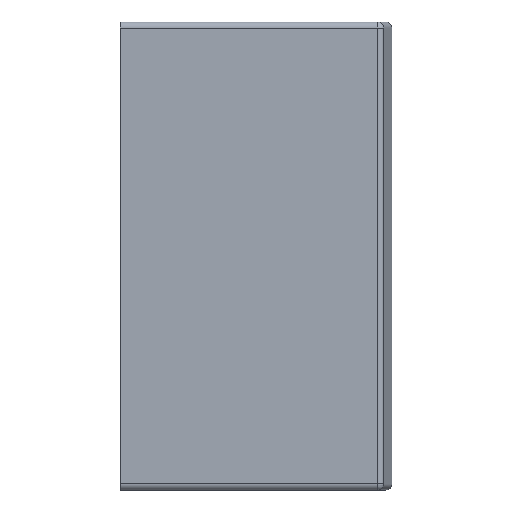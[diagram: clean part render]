
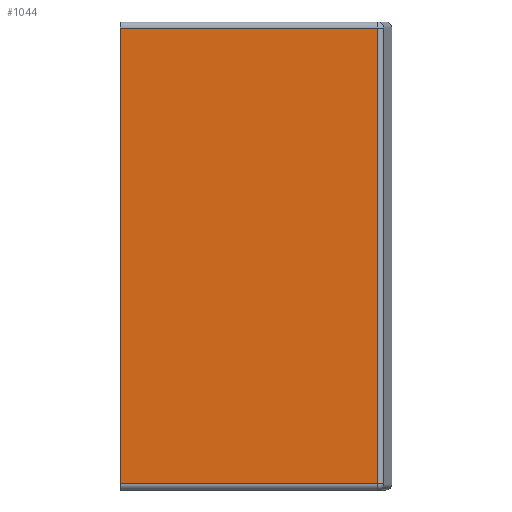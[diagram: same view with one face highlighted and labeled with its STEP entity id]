
A CAD part, top view. The second image highlights one B-rep face of the part: STEP entity #1044.
In plain terms, the highlighted planar face has unit normal (0, 0, 1).
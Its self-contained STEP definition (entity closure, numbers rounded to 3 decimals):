
#5 = VECTOR ( 'NONE', #625, 1000. ) ;
#16 = EDGE_CURVE ( 'NONE', #191, #865, #353, .T. ) ;
#56 = CARTESIAN_POINT ( 'NONE',  ( 67.6, 7.55, 1.5 ) ) ;
#75 = DIRECTION ( 'NONE',  ( 0., -1., 0. ) ) ;
#167 = EDGE_CURVE ( 'NONE', #865, #259, #483, .T. ) ;
#177 = VERTEX_POINT ( 'NONE', #56 ) ;
#182 = CARTESIAN_POINT ( 'NONE',  ( 76.136, -7.55, 1.5 ) ) ;
#191 = VERTEX_POINT ( 'NONE', #999 ) ;
#198 = LINE ( 'NONE', #632, #397 ) ;
#216 = CARTESIAN_POINT ( 'NONE',  ( 76.6, -7.75, 1.5 ) ) ;
#259 = VERTEX_POINT ( 'NONE', #1019 ) ;
#296 = DIRECTION ( 'NONE',  ( 0., 0., -1. ) ) ;
#326 = ORIENTED_EDGE ( 'NONE', *, *, #969, .T. ) ;
#353 = LINE ( 'NONE', #1083, #577 ) ;
#362 = EDGE_CURVE ( 'NONE', #177, #191, #652, .T. ) ;
#397 = VECTOR ( 'NONE', #715, 1000. ) ;
#420 = CARTESIAN_POINT ( 'NONE',  ( 76.136, 7.75, 1.5 ) ) ;
#425 = AXIS2_PLACEMENT_3D ( 'NONE', #216, #296, #899 ) ;
#462 = CARTESIAN_POINT ( 'NONE',  ( 67.6, 7.75, 1.5 ) ) ;
#483 = LINE ( 'NONE', #420, #5 ) ;
#537 = EDGE_LOOP ( 'NONE', ( #557, #712, #854, #326 ) ) ;
#557 = ORIENTED_EDGE ( 'NONE', *, *, #362, .T. ) ;
#577 = VECTOR ( 'NONE', #724, 1000. ) ;
#625 = DIRECTION ( 'NONE',  ( 0., 1., 0. ) ) ;
#632 = CARTESIAN_POINT ( 'NONE',  ( 76.6, 7.55, 1.5 ) ) ;
#652 = LINE ( 'NONE', #462, #856 ) ;
#712 = ORIENTED_EDGE ( 'NONE', *, *, #16, .T. ) ;
#715 = DIRECTION ( 'NONE',  ( -1., 0., 0. ) ) ;
#724 = DIRECTION ( 'NONE',  ( 1., 0., 0. ) ) ;
#804 = PLANE ( 'NONE',  #425 ) ;
#854 = ORIENTED_EDGE ( 'NONE', *, *, #167, .T. ) ;
#856 = VECTOR ( 'NONE', #75, 1000. ) ;
#865 = VERTEX_POINT ( 'NONE', #182 ) ;
#899 = DIRECTION ( 'NONE',  ( -1., 0., 0. ) ) ;
#969 = EDGE_CURVE ( 'NONE', #259, #177, #198, .T. ) ;
#999 = CARTESIAN_POINT ( 'NONE',  ( 67.6, -7.55, 1.5 ) ) ;
#1019 = CARTESIAN_POINT ( 'NONE',  ( 76.136, 7.55, 1.5 ) ) ;
#1037 = FACE_OUTER_BOUND ( 'NONE', #537, .T. ) ;
#1044 = ADVANCED_FACE ( 'NONE', ( #1037 ), #804, .F. ) ;
#1083 = CARTESIAN_POINT ( 'NONE',  ( 76.6, -7.55, 1.5 ) ) ;
